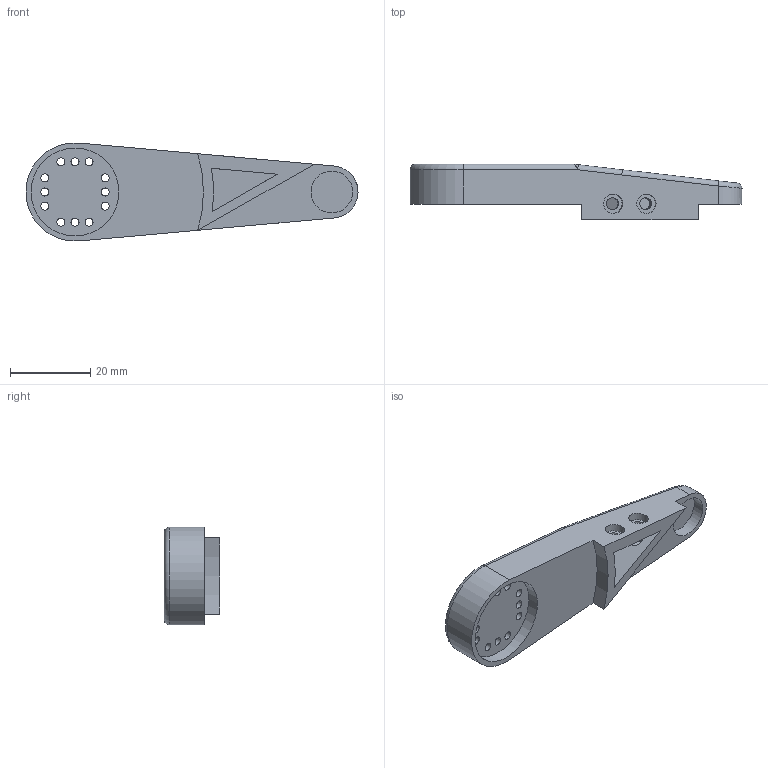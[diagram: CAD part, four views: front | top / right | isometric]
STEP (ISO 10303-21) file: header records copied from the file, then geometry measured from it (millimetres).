
FILE_DESCRIPTION(('FreeCAD Model'),'2;1');
FILE_NAME('Open CASCADE Shape Model','2026-09-18T10:53:04',('Author'),( ''),'Open CASCADE STEP processor 7.8','FreeCAD','Unknown');
FILE_SCHEMA(('AUTOMOTIVE_DESIGN { 1 0 10303 214 1 1 1 1 }'));
Length unit declared in the file: millimetre
Products named in the file (1): Body
Bounding box: 82.7 x 13.85 x 24.41 mm (x, y, z)
Volume: 12046.8 mm3; surface area: 6134.7 mm2
Topology: 1 solids, 1 shells, 66 faces, 148 edges, 98 vertices
Faces by surface type: cylinder 36, plane 24, bspline 5, torus 1
Full cylindrical faces by diameter (mm): 2 x12, 3 x3, 4 x8, 4.8 x2, 10.4 x1, 21.9 x1
Entity records: 2187 total; most frequent: CARTESIAN_POINT 620, DIRECTION 330, ORIENTED_EDGE 296, EDGE_CURVE 148, AXIS2_PLACEMENT_3D 138, FACE_BOUND 108, EDGE_LOOP 108, VERTEX_POINT 98
